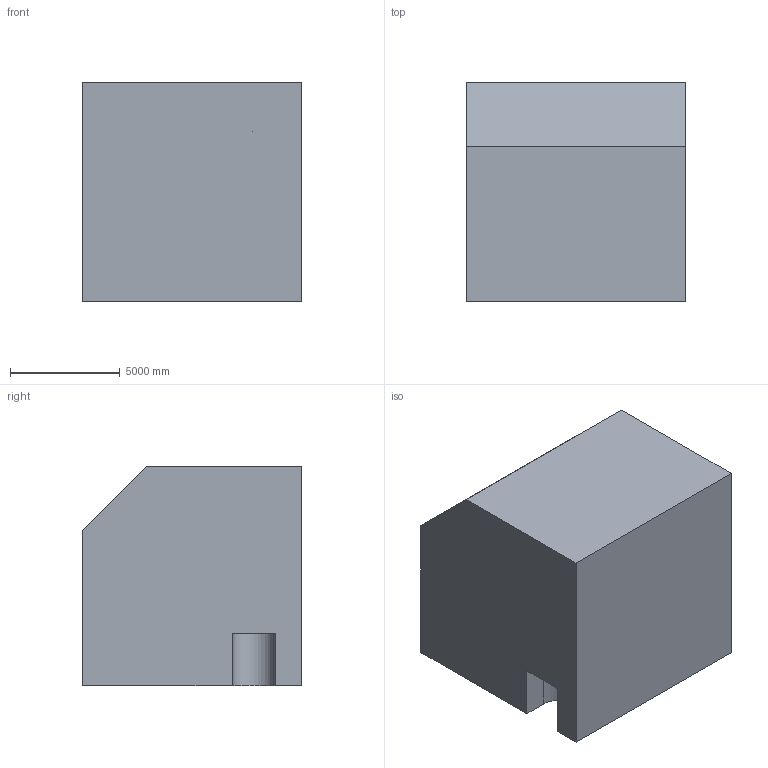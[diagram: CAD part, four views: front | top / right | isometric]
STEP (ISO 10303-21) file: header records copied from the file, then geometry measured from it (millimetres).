
FILE_DESCRIPTION (( 'STEP AP203' ), '1' );
FILE_NAME ('1020.STEP', '2022-08-25T14:38:52', ( 'user' ), ( '' ), 'SwSTEP 2.0', 'SolidWorks 2021', '' );
FILE_SCHEMA (( 'CONFIG_CONTROL_DESIGN' ));
Length unit declared in the file: centimetre
Products named in the file (1): 1020
Bounding box: 10000 x 10000 x 10000 mm (x, y, z)
Volume: 948500863932.3 mm3; surface area: 582058952.5 mm2
Topology: 1 solids, 1 shells, 11 faces, 27 edges, 18 vertices
Faces by surface type: plane 10, cylinder 1
Entity records: 400 total; most frequent: CARTESIAN_POINT 57, ORIENTED_EDGE 54, DIRECTION 53, EDGE_CURVE 27, VECTOR 25, LINE 25, VERTEX_POINT 18, AXIS2_PLACEMENT_3D 14
